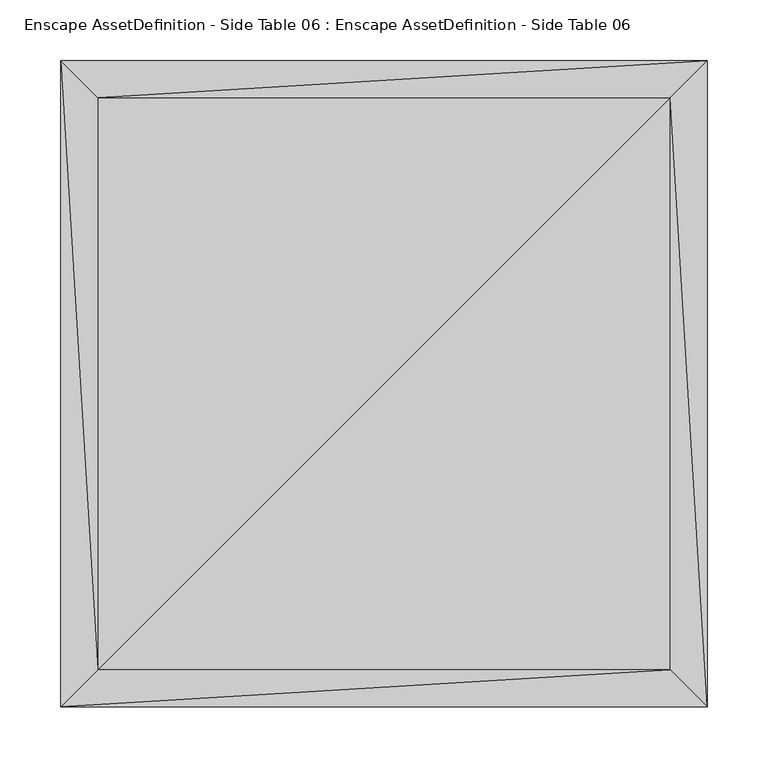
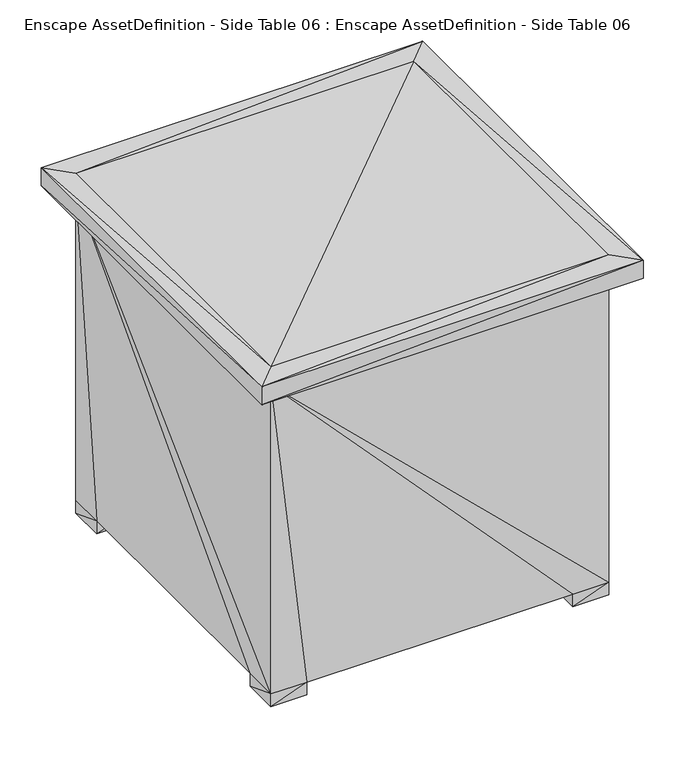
"""IFC4 building model written with IfcOpenShell, lengths in millimetres: geographic element geometry, Enscape AssetDefinition - Side Table 06 : Enscape AssetDefinition - Side Table 06."""

from ifc_helpers import new_model, si_unit, origin, place, context, project, spatial, faceted_brep, source, transform, mapped, element, save


def enscape_assetdefinition_side_table_06_enscape_d0498537(model_context):
    return source(origin(), model_context, "Body", "Brep", [
        faceted_brep([(184.7530007, -184.9439889, 18.7010001), (-185.247004, -184.9439889, 18.7010001), (184.7530007, 185.0560009, 18.7010001), (-235.2470011, -184.9439889, 18.7010001), (-235.2470011, 185.0560009, 18.7010001), (184.7530007, -234.9440008, 18.7010001), (-185.247004, -234.9440008, 18.7010001), (-185.247004, -184.9439889, -0.082), (-185.247004, -234.9440008, -0.082), (-185.247004, 185.0560009, 18.7010001), (-235.2470011, -234.9440008, 473.1969833), (-235.2470011, -234.9440008, 18.7010001), (-235.2470011, -234.9440008, -0.082), (-235.2470011, -184.9439889, -0.082), (-235.2470011, 235.055998, 473.1969833), (-265.6240165, -265.3209865, 473.1969833), (265.1300132, -265.3209865, 473.1969833), (234.7529978, -234.9440008, 18.7010001), (234.7529978, -234.9440008, 473.1969833), (265.1300132, -265.3209865, 499.917984), (-265.6240165, 265.4330134, 473.1969833), (-265.6240165, -265.3209865, 499.917984), (234.7529978, -234.9440008, 499.917984), (265.1300132, 265.4330134, 499.917984), (234.7529978, 235.055998, 499.917984), (-235.2470011, -234.9440008, 499.917984), (-265.6240165, 265.4330134, 499.917984), (265.1300132, 265.4330134, 473.1969833), (234.7529978, 235.055998, 473.1969833), (-235.2470011, 235.055998, 499.917984), (234.7529978, -184.9439889, 18.7010001), (234.7529978, 235.055998, 18.7010001), (234.7529978, 185.0560009, 18.7010001), (234.7529978, -234.9440008, -0.082), (184.7530007, -234.9440008, -0.082), (184.7530007, -184.9439889, -0.082), (234.7529978, -184.9439889, -0.082), (-185.247004, 235.055998, 18.7010001), (184.7530007, 235.055998, 18.7010001), (184.7530007, 185.0560009, -0.082), (184.7530007, 235.055998, -0.082), (234.7529978, 235.055998, -0.082), (234.7529978, 185.0560009, -0.082), (-235.2470011, 235.055998, 18.7010001), (-235.2470011, 235.055998, -0.082), (-185.247004, 235.055998, -0.082), (-235.2470011, 185.0560009, -0.082), (-185.247004, 185.0560009, -0.082)], [[[0, 1, 2]], [[1, 3, 4]], [[1, 5, 6]], [[7, 1, 8]], [[2, 1, 9]], [[1, 4, 9]], [[5, 1, 0]], [[7, 3, 1]], [[8, 1, 6]], [[10, 11, 6]], [[8, 6, 12]], [[10, 6, 5]], [[12, 6, 11]], [[7, 8, 12]], [[13, 3, 7]], [[7, 12, 13]], [[12, 11, 13]], [[14, 11, 10]], [[14, 3, 11]], [[13, 11, 3]], [[15, 10, 16]], [[10, 17, 18]], [[10, 5, 17]], [[16, 10, 18]], [[15, 14, 10]], [[15, 16, 19]], [[20, 15, 21]], [[20, 14, 15]], [[15, 19, 21]], [[19, 22, 21]], [[23, 24, 19]], [[16, 23, 19]], [[19, 24, 22]], [[21, 25, 26]], [[20, 21, 26]], [[21, 22, 25]], [[27, 20, 26]], [[27, 28, 20]], [[20, 28, 14]], [[26, 29, 23]], [[27, 26, 23]], [[26, 25, 29]], [[16, 27, 23]], [[23, 29, 24]], [[16, 18, 27]], [[27, 18, 28]], [[18, 17, 30]], [[18, 31, 28]], [[18, 32, 31]], [[18, 30, 32]], [[33, 17, 34]], [[34, 17, 5]], [[33, 30, 17]], [[34, 5, 35]], [[35, 33, 34]], [[35, 36, 33]], [[36, 30, 33]], [[35, 0, 36]], [[35, 5, 0]], [[36, 0, 30]], [[2, 30, 0]], [[2, 32, 30]], [[2, 37, 38]], [[39, 2, 40]], [[37, 2, 9]], [[39, 32, 2]], [[40, 2, 38]], [[39, 40, 41]], [[40, 38, 41]], [[28, 31, 38]], [[28, 38, 37]], [[41, 38, 31]], [[41, 31, 42]], [[39, 41, 42]], [[42, 32, 39]], [[42, 31, 32]], [[28, 43, 14]], [[28, 37, 43]], [[14, 43, 4]], [[44, 43, 45]], [[45, 43, 37]], [[44, 4, 43]], [[14, 4, 3]], [[46, 4, 44]], [[46, 9, 4]], [[47, 46, 44]], [[47, 44, 45]], [[45, 37, 47]], [[47, 37, 9]], [[47, 9, 46]], [[29, 25, 24]], [[24, 25, 22]]]),
    ])


if __name__ == "__main__":
    model = new_model("IFC4")
    model_context = context("Model", 3, world=origin())
    ifc_project = project(units=[si_unit("LENGTHUNIT", "METRE", prefix="MILLI")], contexts=[model_context])
    site = spatial("IfcSite", under=ifc_project)
    building = spatial("IfcBuilding", under=site)
    placement = place(None, origin())
    enscape_assetdefinition_side_table_06_enscape_shape = enscape_assetdefinition_side_table_06_enscape_d0498537(model_context)
    element("IfcGeographicElement", 1, ObjectType="Enscape AssetDefinition - Side Table 06 : Enscape AssetDefinition - Side Table 06", at=placement, inside=building, context=model_context, shape_type="MappedRepresentation", body=[
        mapped(enscape_assetdefinition_side_table_06_enscape_shape, transform((0.0, 0.0, 0.0), x_axis=(1.0, 0.0, 0.0), y_axis=(0.0, 1.0, 0.0), z_axis=(0.0, 0.0, 1.0))),
    ])
    save(model, "model.ifc")
